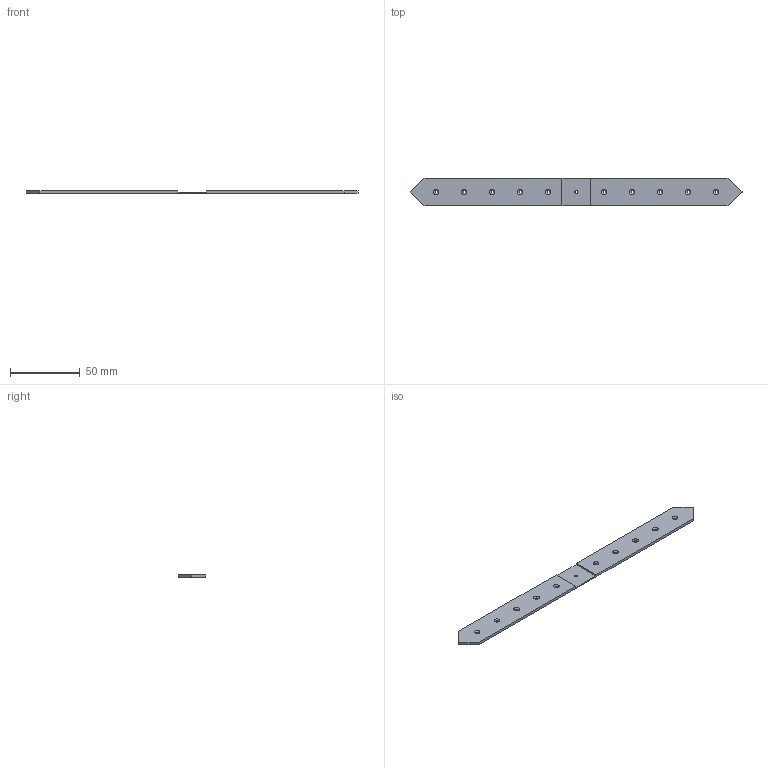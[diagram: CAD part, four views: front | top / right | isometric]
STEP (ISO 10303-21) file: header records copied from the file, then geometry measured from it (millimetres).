
FILE_DESCRIPTION (( 'STEP AP214' ), '1' );
FILE_NAME ('SC6_2.STEP', '2016-02-27T08:09:51', ( '' ), ( '' ), 'SwSTEP 2.0', 'SolidWorks 2012', '' );
FILE_SCHEMA (( 'AUTOMOTIVE_DESIGN' ));
Length unit declared in the file: millimetre
Products named in the file (1): SC6_2
Bounding box: 237.21 x 20 x 2 mm (x, y, z)
Volume: 8548.3 mm3; surface area: 10085.6 mm2
Topology: 1 solids, 1 shells, 76 faces, 180 edges, 106 vertices
Faces by surface type: cone 42, cylinder 22, plane 12
Entity records: 2252 total; most frequent: DIRECTION 420, CARTESIAN_POINT 363, ORIENTED_EDGE 360, EDGE_CURVE 180, AXIS2_PLACEMENT_3D 163, VERTEX_POINT 106, EDGE_LOOP 98, LINE 94
